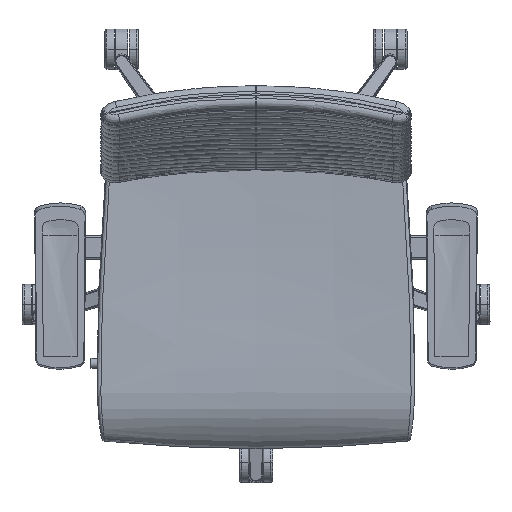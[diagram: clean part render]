
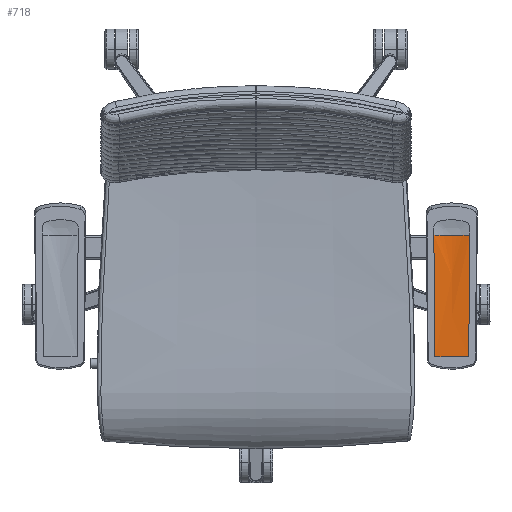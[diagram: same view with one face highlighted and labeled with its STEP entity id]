
A CAD part, top view. The second image highlights one B-rep face of the part: STEP entity #718.
In plain terms, the highlighted free-form (B-spline) face has degree [3, 2] with [4, 3] control points.
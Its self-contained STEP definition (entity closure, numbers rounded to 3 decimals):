
#718=ADVANCED_FACE('',(#1438),#9728,.T.);
#1438=FACE_OUTER_BOUND('',#2158,.T.);
#2158=EDGE_LOOP('',(#4793,#4794,#4795,#4796,#4797));
#4793=ORIENTED_EDGE('',*,*,#6698,.T.);
#4794=ORIENTED_EDGE('',*,*,#6696,.T.);
#4795=ORIENTED_EDGE('',*,*,#6697,.T.);
#4796=ORIENTED_EDGE('',*,*,#6699,.T.);
#4797=ORIENTED_EDGE('',*,*,#6715,.T.);
#6696=EDGE_CURVE('',#9426,#9427,#7293,.T.);
#6697=EDGE_CURVE('',#9427,#9425,#7294,.T.);
#6698=EDGE_CURVE('',#9428,#9426,#7295,.T.);
#6699=EDGE_CURVE('',#9425,#9429,#7296,.T.);
#6715=EDGE_CURVE('',#9429,#9428,#8494,.T.);
#7293=(
BOUNDED_CURVE()
B_SPLINE_CURVE(2,(#51549,#51550,#51551),.UNSPECIFIED.,.F.,.F.)
B_SPLINE_CURVE_WITH_KNOTS((3,3),(0.,26.864),.UNSPECIFIED.)
CURVE()
GEOMETRIC_REPRESENTATION_ITEM()
RATIONAL_B_SPLINE_CURVE((1.,0.994,1.))
REPRESENTATION_ITEM('')
);
#7294=(
BOUNDED_CURVE()
B_SPLINE_CURVE(2,(#51552,#51553,#51554),.UNSPECIFIED.,.F.,.F.)
B_SPLINE_CURVE_WITH_KNOTS((3,3),(-26.864,0.),.UNSPECIFIED.)
CURVE()
GEOMETRIC_REPRESENTATION_ITEM()
RATIONAL_B_SPLINE_CURVE((1.,0.994,1.))
REPRESENTATION_ITEM('')
);
#7295=(
BOUNDED_CURVE()
B_SPLINE_CURVE(3,(#51555,#51556,#51557,#51558),.UNSPECIFIED.,.F.,.F.)
B_SPLINE_CURVE_WITH_KNOTS((4,4),(0.,180.167),.UNSPECIFIED.)
CURVE()
GEOMETRIC_REPRESENTATION_ITEM()
RATIONAL_B_SPLINE_CURVE((1.,1.,1.,1.))
REPRESENTATION_ITEM('')
);
#7296=(
BOUNDED_CURVE()
B_SPLINE_CURVE(3,(#51559,#51560,#51561,#51562),.UNSPECIFIED.,.F.,.F.)
B_SPLINE_CURVE_WITH_KNOTS((4,4),(-180.167,0.),.UNSPECIFIED.)
CURVE()
GEOMETRIC_REPRESENTATION_ITEM()
RATIONAL_B_SPLINE_CURVE((1.,1.,1.,1.))
REPRESENTATION_ITEM('')
);
#8494=B_SPLINE_CURVE_WITH_KNOTS('',1,(#51624,#51625),.UNSPECIFIED.,.F.,
 .F.,(2,2),(0.,50.276),.UNSPECIFIED.);
#9425=VERTEX_POINT('',#51521);
#9426=VERTEX_POINT('',#51522);
#9427=VERTEX_POINT('',#51523);
#9428=VERTEX_POINT('',#51524);
#9429=VERTEX_POINT('',#51525);
#9728=(
BOUNDED_SURFACE()
B_SPLINE_SURFACE(3,2,((#51441,#51442,#51443),(#51444,#51445,#51446),(#51447,
#51448,#51449),(#51450,#51451,#51452)),.UNSPECIFIED.,.F.,.F.,.F.)
B_SPLINE_SURFACE_WITH_KNOTS((4,4),(3,3),(0.,180.167),(-53.728,
0.),.UNSPECIFIED.)
GEOMETRIC_REPRESENTATION_ITEM()
RATIONAL_B_SPLINE_SURFACE(((1.,0.975,1.),(1.,0.975,
1.),(1.,0.975,1.),(1.,0.975,1.)))
REPRESENTATION_ITEM('')
SURFACE()
);
#51441=CARTESIAN_POINT('',(315.828,-164.805,673.407));
#51442=CARTESIAN_POINT('',(290.691,-164.805,673.407));
#51443=CARTESIAN_POINT('',(265.553,-164.805,673.407));
#51444=CARTESIAN_POINT('',(316.329,-104.752,673.259));
#51445=CARTESIAN_POINT('',(290.691,-104.752,673.31));
#51446=CARTESIAN_POINT('',(265.052,-104.752,673.259));
#51447=CARTESIAN_POINT('',(316.829,-44.699,673.11));
#51448=CARTESIAN_POINT('',(290.691,-44.713,667.198));
#51449=CARTESIAN_POINT('',(264.552,-44.699,673.11));
#51450=CARTESIAN_POINT('',(317.33,15.355,672.962));
#51451=CARTESIAN_POINT('',(290.691,15.34,666.885));
#51452=CARTESIAN_POINT('',(264.051,15.355,672.962));
#51521=CARTESIAN_POINT('',(264.051,15.355,672.962));
#51522=CARTESIAN_POINT('',(317.33,15.355,672.962));
#51523=CARTESIAN_POINT('',(290.691,15.347,669.962));
#51524=CARTESIAN_POINT('',(315.828,-164.805,673.407));
#51525=CARTESIAN_POINT('',(265.553,-164.805,673.407));
#51549=CARTESIAN_POINT('',(317.33,15.355,672.962));
#51550=CARTESIAN_POINT('',(304.179,15.347,669.962));
#51551=CARTESIAN_POINT('',(290.691,15.347,669.962));
#51552=CARTESIAN_POINT('',(290.691,15.347,669.962));
#51553=CARTESIAN_POINT('',(277.202,15.347,669.962));
#51554=CARTESIAN_POINT('',(264.051,15.355,672.962));
#51555=CARTESIAN_POINT('',(315.828,-164.805,673.407));
#51556=CARTESIAN_POINT('',(316.329,-104.752,673.259));
#51557=CARTESIAN_POINT('',(316.829,-44.699,673.11));
#51558=CARTESIAN_POINT('',(317.33,15.355,672.962));
#51559=CARTESIAN_POINT('',(264.051,15.355,672.962));
#51560=CARTESIAN_POINT('',(264.552,-44.699,673.11));
#51561=CARTESIAN_POINT('',(265.052,-104.752,673.259));
#51562=CARTESIAN_POINT('',(265.553,-164.805,673.407));
#51624=CARTESIAN_POINT('',(265.553,-164.805,673.407));
#51625=CARTESIAN_POINT('',(315.828,-164.805,673.407));
